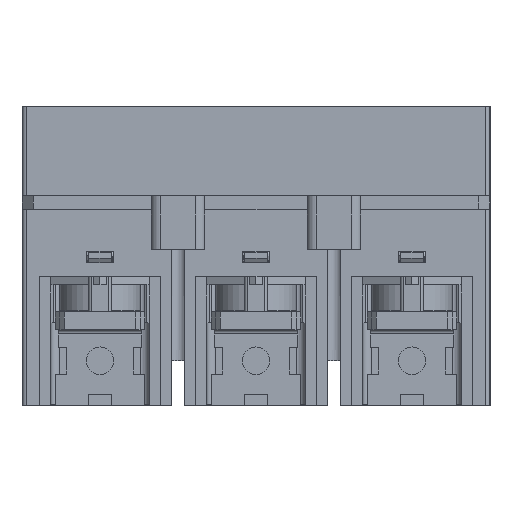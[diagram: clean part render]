
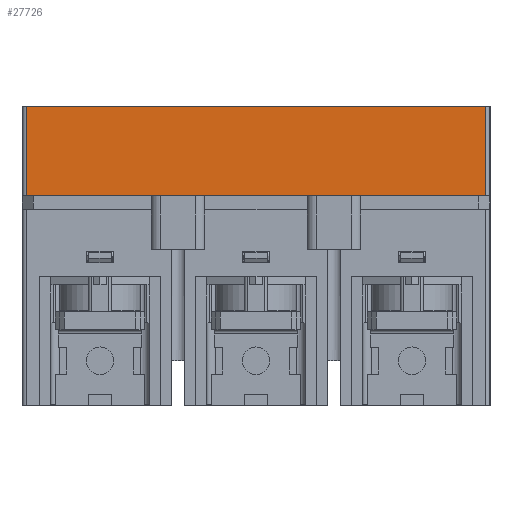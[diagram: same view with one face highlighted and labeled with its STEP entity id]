
A CAD part, left-side view. The second image highlights one B-rep face of the part: STEP entity #27726.
In plain terms, the highlighted planar face has unit normal (-1, 0, 0).
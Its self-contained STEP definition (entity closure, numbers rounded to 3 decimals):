
#8818=DIRECTION('',(0.,0.,-1.));
#8819=VECTOR('',#8818,20.);
#8820=CARTESIAN_POINT('',(-41.75,1.2,-80.8));
#8821=LINE('',#8820,#8819);
#8822=DIRECTION('',(0.,-1.,0.));
#8823=VECTOR('',#8822,103.);
#8824=CARTESIAN_POINT('',(-41.75,104.2,-100.8));
#8825=LINE('',#8824,#8823);
#8826=DIRECTION('',(0.,1.,0.));
#8827=VECTOR('',#8826,103.);
#8828=CARTESIAN_POINT('',(-41.75,1.2,-80.8));
#8829=LINE('',#8828,#8827);
#8834=DIRECTION('',(0.,0.,1.));
#8835=VECTOR('',#8834,20.);
#8836=CARTESIAN_POINT('',(-41.75,104.2,-100.8));
#8837=LINE('',#8836,#8835);
#12661=CARTESIAN_POINT('',(-41.75,1.2,-80.8));
#12662=CARTESIAN_POINT('',(-41.75,1.2,-100.8));
#12663=VERTEX_POINT('',#12661);
#12664=VERTEX_POINT('',#12662);
#13481=CARTESIAN_POINT('',(-41.75,104.2,-100.8));
#13482=CARTESIAN_POINT('',(-41.75,104.2,-80.8));
#13483=VERTEX_POINT('',#13481);
#13484=VERTEX_POINT('',#13482);
#27714=CARTESIAN_POINT('',(-41.75,0.2,-80.8));
#27715=DIRECTION('',(1.,0.,0.));
#27716=DIRECTION('',(0.,0.,-1.));
#27717=AXIS2_PLACEMENT_3D('',#27714,#27715,#27716);
#27718=PLANE('',#27717);
#27719=ORIENTED_EDGE('',*,*,#27709,.T.);
#27720=ORIENTED_EDGE('',*,*,#17523,.F.);
#27722=ORIENTED_EDGE('',*,*,#27721,.T.);
#27723=ORIENTED_EDGE('',*,*,#19086,.F.);
#27724=EDGE_LOOP('',(#27719,#27720,#27722,#27723));
#27725=FACE_OUTER_BOUND('',#27724,.F.);
#27726=ADVANCED_FACE('',(#27725),#27718,.F.);
#17523=EDGE_CURVE('',#13483,#12664,#8825,.T.);
#19086=EDGE_CURVE('',#12663,#13484,#8829,.T.);
#27709=EDGE_CURVE('',#12663,#12664,#8821,.T.);
#27721=EDGE_CURVE('',#13483,#13484,#8837,.T.);
